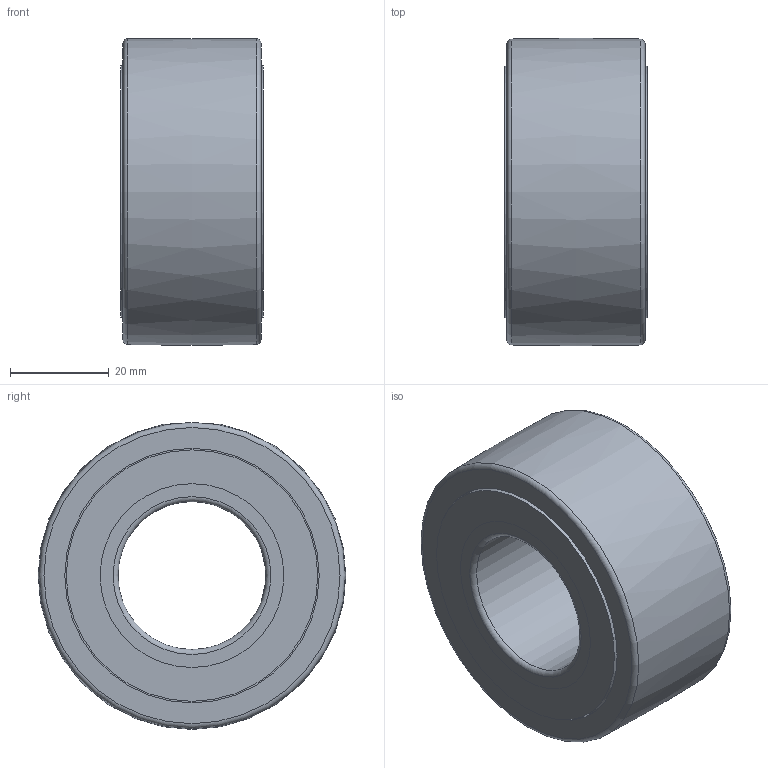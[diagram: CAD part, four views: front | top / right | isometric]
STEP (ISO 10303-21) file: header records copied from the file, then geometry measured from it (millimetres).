
FILE_DESCRIPTION(/* description */ (''),/* implementation_level */ '2;1');
FILE_NAME(/* name */ 'C:\Users\OUREHANEKD\NATV\NATV--\NATV30.stp',/* time_stamp */ '2018-06-05T13:12:18+02:00',/* author */ ('OUREHANEKD'),/* organization */ (''),/* preprocessor_version */ 'ST-DEVELOPER v16.13',/* originating_system */ 'Autodesk Inventor 2018',/* authorisation */ '');
FILE_SCHEMA (('AUTOMOTIVE_DESIGN { 1 0 10303 214 3 1 1 }'));
Length unit declared in the file: millimetre
Products named in the file (5): NATV30; NATV30-01; NATV30-needle; NATV30-shield; NATV30-02
Assembly tree (43 placements, depth 2):
  NATV30
    NATV30-01
    NATV30-needle  x40
    NATV30-shield
    NATV30-02
Bounding box: 29 x 62.39 x 62.22 mm (x, y, z)
Volume: 62302.7 mm3; surface area: 30728.1 mm2
Topology: 44 solids, 44 shells, 149 faces, 169 edges, 112 vertices
Faces by surface type: plane 92, cylinder 52, torus 4, bspline 1
Full cylindrical faces by diameter (mm): 2.016 x40, 2.52 x1, 30 x1, 37.28 x4, 40.08 x1, 44.112 x1, 51 x2, 51.6 x2
Entity records: 1260 total; most frequent: CARTESIAN_POINT 243, DIRECTION 222, AXIS2_PLACEMENT_3D 111, ORIENTED_EDGE 70, EDGE_LOOP 63, PRODUCT_DEFINITION_SHAPE 48, ITEM_DEFINED_TRANSFORMATION 43, CONTEXT_DEPENDENT_SHAPE_REPRESENTATION 43
